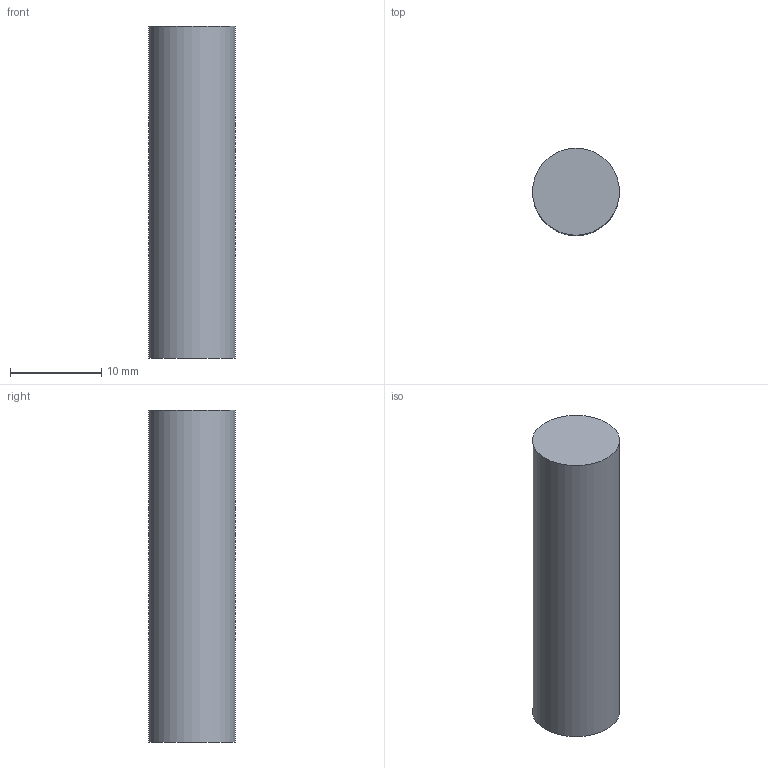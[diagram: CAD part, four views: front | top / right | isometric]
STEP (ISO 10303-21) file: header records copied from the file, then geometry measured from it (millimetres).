
FILE_DESCRIPTION(/* description */ (''),/* implementation_level */ '2;1');
FILE_NAME(/* name */ 'Knee Pin v1.step',/* time_stamp */ '2025-10-21T12:09:50-07:00',/* author */ (''),/* organization */ (''),/* preprocessor_version */ 'ST-DEVELOPER v20.1',/* originating_system */ 'Autodesk Translation Framework v14.17.0.0',/* authorisation */ '');
FILE_SCHEMA (('AUTOMOTIVE_DESIGN { 1 0 10303 214 3 1 1 }'));
Length unit declared in the file: inch
Products named in the file (1): Knee Pin
Bounding box: 9.53 x 9.53 x 36.35 mm (x, y, z)
Volume: 2590.1 mm3; surface area: 1230.2 mm2
Topology: 1 solids, 1 shells, 3 faces, 3 edges, 2 vertices
Faces by surface type: plane 2, cylinder 1
Full cylindrical faces by diameter (mm): 9.525 x1
Entity records: 94 total; most frequent: DIRECTION 13, CARTESIAN_POINT 9, ORIENTED_EDGE 6, AXIS2_PLACEMENT_3D 6, FACE_OUTER_BOUND 3, EDGE_LOOP 3, EDGE_CURVE 3, ADVANCED_FACE 3
